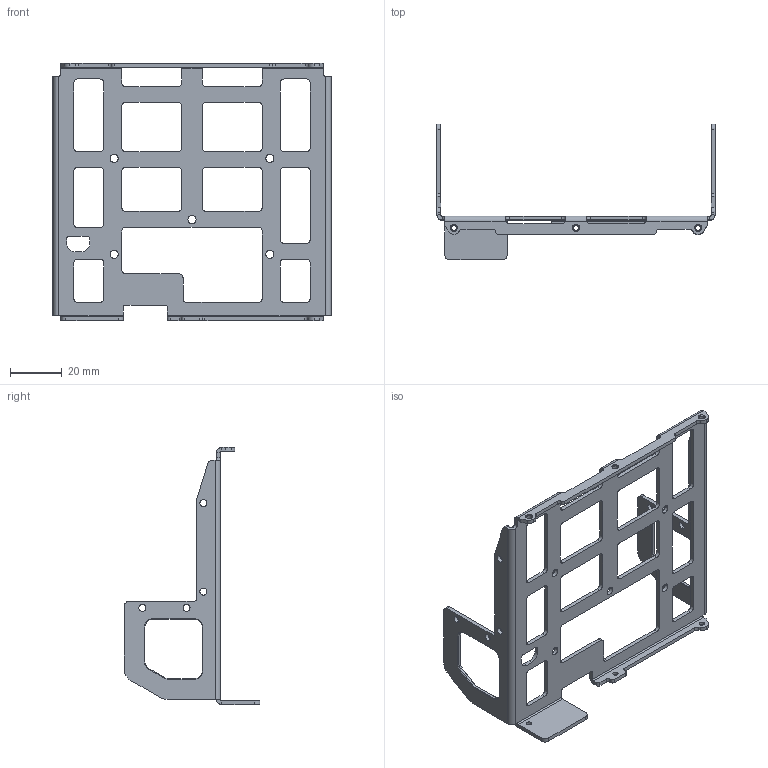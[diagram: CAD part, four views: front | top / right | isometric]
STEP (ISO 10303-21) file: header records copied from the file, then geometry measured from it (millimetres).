
FILE_DESCRIPTION((''),'2;1');
FILE_NAME('PR13_B02_FRM_PCB_MAIN_T','2016-08-12T',('kimdolyang'),(''),'PRO/ENGINEER BY PARAMETRIC TECHNOLOGY CORPORATION, 2013410','PRO/ENGINEER BY PARAMETRIC TECHNOLOGY CORPORATION, 2013410','');
FILE_SCHEMA(('AUTOMOTIVE_DESIGN { 1 0 10303 214 1 1 1 1 }'));
Length unit declared in the file: millimetre
Products named in the file (1): PR13_B02_FRM_PCB_MAIN_T
Bounding box: 107 x 52.2 x 99 mm (x, y, z)
Volume: 12700.5 mm3; surface area: 19807.6 mm2
Topology: 1 solids, 1 shells, 346 faces, 940 edges, 592 vertices
Faces by surface type: plane 158, cylinder 156, cone 32
Entity records: 14029 total; most frequent: DIRECTION 1964, CARTESIAN_POINT 1920, ORIENTED_EDGE 1880, PRESENTATION_STYLE_ASSIGNMENT 941, STYLED_ITEM 941, CURVE_STYLE 940, EDGE_CURVE 940, AXIS2_PLACEMENT_3D 686
